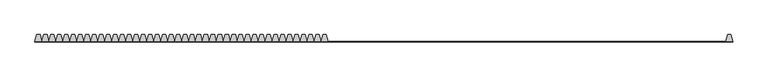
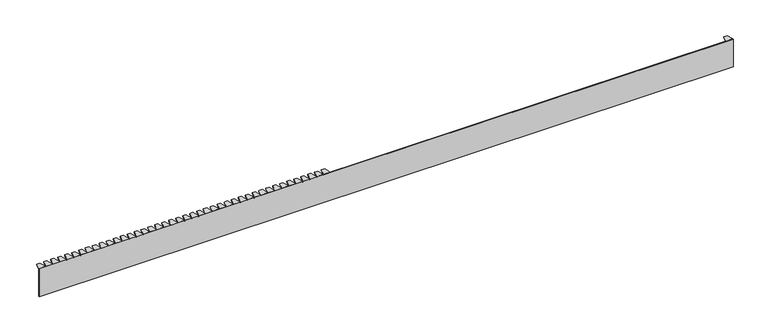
"""IFC4 building model written with IfcOpenShell, lengths in millimetres: duct fitting geometry, Частичная крышка шириной 40 мм - для кабель-канала DLP 65x195 - 2м - белый : 85мм."""

from ifc_helpers import new_model, si_unit, frame, origin, place, context, project, spatial, polyline, outline, extrude, source, transform, mapped, element, save


def duct_fitting_a01ee9ae(model_context):
    return source(origin(), model_context, "Body", "SweptSolid", [
        extrude(outline(polyline([(-165.3589838, 20.0), (-160.0, 0.0), (-180.0, 0.0), (-174.2650923, 20.0), (-165.3589838, 20.0)])), frame((0.0, 0.0, 40.5), z_axis=(0.0, 0.0, 1.0), x_axis=(1.0, 0.0, 0.0)), (0.0, 0.0, 1.0), 2.0),
        extrude(outline(polyline([(-185.3589838, 20.0), (-180.0, 0.0), (-200.0, 0.0), (-194.2650923, 20.0), (-185.3589838, 20.0)])), frame((0.0, 0.0, 40.5), z_axis=(0.0, 0.0, 1.0), x_axis=(1.0, 0.0, 0.0)), (0.0, 0.0, 1.0), 2.0),
        extrude(outline(polyline([(-205.3589838, 20.0), (-200.0, 0.0), (-220.0, 0.0), (-214.2650923, 20.0), (-205.3589838, 20.0)])), frame((0.0, 0.0, 40.5), z_axis=(0.0, 0.0, 1.0), x_axis=(1.0, 0.0, 0.0)), (0.0, 0.0, 1.0), 2.0),
        extrude(outline(polyline([(-225.3589838, 20.0), (-220.0, 0.0), (-240.0, 0.0), (-234.2650923, 20.0), (-225.3589838, 20.0)])), frame((0.0, 0.0, 40.5), z_axis=(0.0, 0.0, 1.0), x_axis=(1.0, 0.0, 0.0)), (0.0, 0.0, 1.0), 2.0),
        extrude(outline(polyline([(-245.3589838, 20.0), (-240.0, 0.0), (-260.0, 0.0), (-254.2650923, 20.0), (-245.3589838, 20.0)])), frame((0.0, 0.0, 40.5), z_axis=(0.0, 0.0, 1.0), x_axis=(1.0, 0.0, 0.0)), (0.0, 0.0, 1.0), 2.0),
        extrude(outline(polyline([(-265.3589838, 20.0), (-260.0, 0.0), (-280.0, 0.0), (-274.2650923, 20.0), (-265.3589838, 20.0)])), frame((0.0, 0.0, 40.5), z_axis=(0.0, 0.0, 1.0), x_axis=(1.0, 0.0, 0.0)), (0.0, 0.0, 1.0), 2.0),
        extrude(outline(polyline([(-285.3589838, 20.0), (-280.0, 0.0), (-300.0, 0.0), (-294.2650923, 20.0), (-285.3589838, 20.0)])), frame((0.0, 0.0, 40.5), z_axis=(0.0, 0.0, 1.0), x_axis=(1.0, 0.0, 0.0)), (0.0, 0.0, 1.0), 2.0),
        extrude(outline(polyline([(-305.3589838, 20.0), (-300.0, 0.0), (-320.0, 0.0), (-314.2650923, 20.0), (-305.3589838, 20.0)])), frame((0.0, 0.0, 40.5), z_axis=(0.0, 0.0, 1.0), x_axis=(1.0, 0.0, 0.0)), (0.0, 0.0, 1.0), 2.0),
        extrude(outline(polyline([(-325.3589838, 20.0), (-320.0, 0.0), (-340.0, 0.0), (-334.2650923, 20.0), (-325.3589838, 20.0)])), frame((0.0, 0.0, 40.5), z_axis=(0.0, 0.0, 1.0), x_axis=(1.0, 0.0, 0.0)), (0.0, 0.0, 1.0), 2.0),
        extrude(outline(polyline([(-345.3589838, 20.0), (-340.0, 0.0), (-360.0, 0.0), (-354.2650923, 20.0), (-345.3589838, 20.0)])), frame((0.0, 0.0, 40.5), z_axis=(0.0, 0.0, 1.0), x_axis=(1.0, 0.0, 0.0)), (0.0, 0.0, 1.0), 2.0),
        extrude(outline(polyline([(-365.3589838, 20.0), (-360.0, 0.0), (-380.0, 0.0), (-374.2650923, 20.0), (-365.3589838, 20.0)])), frame((0.0, 0.0, 40.5), z_axis=(0.0, 0.0, 1.0), x_axis=(1.0, 0.0, 0.0)), (0.0, 0.0, 1.0), 2.0),
        extrude(outline(polyline([(-385.3589838, 20.0), (-380.0, 0.0), (-400.0, 0.0), (-394.2650923, 20.0), (-385.3589838, 20.0)])), frame((0.0, 0.0, 40.5), z_axis=(0.0, 0.0, 1.0), x_axis=(1.0, 0.0, 0.0)), (0.0, 0.0, 1.0), 2.0),
        extrude(outline(polyline([(-405.3589838, 20.0), (-400.0, 0.0), (-420.0, 0.0), (-414.2650923, 20.0), (-405.3589838, 20.0)])), frame((0.0, 0.0, 40.5), z_axis=(0.0, 0.0, 1.0), x_axis=(1.0, 0.0, 0.0)), (0.0, 0.0, 1.0), 2.0),
        extrude(outline(polyline([(-425.3589838, 20.0), (-420.0, 0.0), (-440.0, 0.0), (-434.2650923, 20.0), (-425.3589838, 20.0)])), frame((0.0, 0.0, 40.5), z_axis=(0.0, 0.0, 1.0), x_axis=(1.0, 0.0, 0.0)), (0.0, 0.0, 1.0), 2.0),
        extrude(outline(polyline([(-445.3589838, 20.0), (-440.0, 0.0), (-460.0, 0.0), (-454.2650923, 20.0), (-445.3589838, 20.0)])), frame((0.0, 0.0, 40.5), z_axis=(0.0, 0.0, 1.0), x_axis=(1.0, 0.0, 0.0)), (0.0, 0.0, 1.0), 2.0),
        extrude(outline(polyline([(-465.3589838, 20.0), (-460.0, 0.0), (-480.0, 0.0), (-474.2650923, 20.0), (-465.3589838, 20.0)])), frame((0.0, 0.0, 40.5), z_axis=(0.0, 0.0, 1.0), x_axis=(1.0, 0.0, 0.0)), (0.0, 0.0, 1.0), 2.0),
        extrude(outline(polyline([(-485.3589838, 20.0), (-480.0, 0.0), (-500.0, 0.0), (-494.2650923, 20.0), (-485.3589838, 20.0)])), frame((0.0, 0.0, 40.5), z_axis=(0.0, 0.0, 1.0), x_axis=(1.0, 0.0, 0.0)), (0.0, 0.0, 1.0), 2.0),
        extrude(outline(polyline([(-505.3589838, 20.0), (-500.0, 0.0), (-520.0, 0.0), (-514.2650923, 20.0), (-505.3589838, 20.0)])), frame((0.0, 0.0, 40.5), z_axis=(0.0, 0.0, 1.0), x_axis=(1.0, 0.0, 0.0)), (0.0, 0.0, 1.0), 2.0),
        extrude(outline(polyline([(-525.3589838, 20.0), (-520.0, 0.0), (-540.0, 0.0), (-534.2650923, 20.0), (-525.3589838, 20.0)])), frame((0.0, 0.0, 40.5), z_axis=(0.0, 0.0, 1.0), x_axis=(1.0, 0.0, 0.0)), (0.0, 0.0, 1.0), 2.0),
        extrude(outline(polyline([(-545.3589838, 20.0), (-540.0, 0.0), (-560.0, 0.0), (-554.2650923, 20.0), (-545.3589838, 20.0)])), frame((0.0, 0.0, 40.5), z_axis=(0.0, 0.0, 1.0), x_axis=(1.0, 0.0, 0.0)), (0.0, 0.0, 1.0), 2.0),
        extrude(outline(polyline([(-565.3589838, 20.0), (-560.0, 0.0), (-580.0, 0.0), (-574.2650923, 20.0), (-565.3589838, 20.0)])), frame((0.0, 0.0, 40.5), z_axis=(0.0, 0.0, 1.0), x_axis=(1.0, 0.0, 0.0)), (0.0, 0.0, 1.0), 2.0),
        extrude(outline(polyline([(-585.3589838, 20.0), (-580.0, 0.0), (-600.0, 0.0), (-594.2650923, 20.0), (-585.3589838, 20.0)])), frame((0.0, 0.0, 40.5), z_axis=(0.0, 0.0, 1.0), x_axis=(1.0, 0.0, 0.0)), (0.0, 0.0, 1.0), 2.0),
        extrude(outline(polyline([(-605.3589838, 20.0), (-600.0, 0.0), (-620.0, 0.0), (-614.2650923, 20.0), (-605.3589838, 20.0)])), frame((0.0, 0.0, 40.5), z_axis=(0.0, 0.0, 1.0), x_axis=(1.0, 0.0, 0.0)), (0.0, 0.0, 1.0), 2.0),
        extrude(outline(polyline([(-625.3589838, 20.0), (-620.0, 0.0), (-640.0, 0.0), (-634.2650923, 20.0), (-625.3589838, 20.0)])), frame((0.0, 0.0, 40.5), z_axis=(0.0, 0.0, 1.0), x_axis=(1.0, 0.0, 0.0)), (0.0, 0.0, 1.0), 2.0),
        extrude(outline(polyline([(-645.3589838, 20.0), (-640.0, 0.0), (-660.0, 0.0), (-654.2650923, 20.0), (-645.3589838, 20.0)])), frame((0.0, 0.0, 40.5), z_axis=(0.0, 0.0, 1.0), x_axis=(1.0, 0.0, 0.0)), (0.0, 0.0, 1.0), 2.0),
        extrude(outline(polyline([(-665.3589838, 20.0), (-660.0, 0.0), (-680.0, 0.0), (-674.2650923, 20.0), (-665.3589838, 20.0)])), frame((0.0, 0.0, 40.5), z_axis=(0.0, 0.0, 1.0), x_axis=(1.0, 0.0, 0.0)), (0.0, 0.0, 1.0), 2.0),
        extrude(outline(polyline([(-685.3589838, 20.0), (-680.0, 0.0), (-700.0, 0.0), (-694.2650923, 20.0), (-685.3589838, 20.0)])), frame((0.0, 0.0, 40.5), z_axis=(0.0, 0.0, 1.0), x_axis=(1.0, 0.0, 0.0)), (0.0, 0.0, 1.0), 2.0),
        extrude(outline(polyline([(-705.3589838, 20.0), (-700.0, 0.0), (-720.0, 0.0), (-714.2650923, 20.0), (-705.3589838, 20.0)])), frame((0.0, 0.0, 40.5), z_axis=(0.0, 0.0, 1.0), x_axis=(1.0, 0.0, 0.0)), (0.0, 0.0, 1.0), 2.0),
        extrude(outline(polyline([(-725.3589838, 20.0), (-720.0, 0.0), (-740.0, 0.0), (-734.2650923, 20.0), (-725.3589838, 20.0)])), frame((0.0, 0.0, 40.5), z_axis=(0.0, 0.0, 1.0), x_axis=(1.0, 0.0, 0.0)), (0.0, 0.0, 1.0), 2.0),
        extrude(outline(polyline([(-745.3589838, 20.0), (-740.0, 0.0), (-760.0, 0.0), (-754.2650923, 20.0), (-745.3589838, 20.0)])), frame((0.0, 0.0, 40.5), z_axis=(0.0, 0.0, 1.0), x_axis=(1.0, 0.0, 0.0)), (0.0, 0.0, 1.0), 2.0),
        extrude(outline(polyline([(-765.3589838, 20.0), (-760.0, 0.0), (-780.0, 0.0), (-774.2650923, 20.0), (-765.3589838, 20.0)])), frame((0.0, 0.0, 40.5), z_axis=(0.0, 0.0, 1.0), x_axis=(1.0, 0.0, 0.0)), (0.0, 0.0, 1.0), 2.0),
        extrude(outline(polyline([(-785.3589838, 20.0), (-780.0, 0.0), (-800.0, 0.0), (-794.2650923, 20.0), (-785.3589838, 20.0)])), frame((0.0, 0.0, 40.5), z_axis=(0.0, 0.0, 1.0), x_axis=(1.0, 0.0, 0.0)), (0.0, 0.0, 1.0), 2.0),
        extrude(outline(polyline([(-805.3589838, 20.0), (-800.0, 0.0), (-820.0, 0.0), (-814.2650923, 20.0), (-805.3589838, 20.0)])), frame((0.0, 0.0, 40.5), z_axis=(0.0, 0.0, 1.0), x_axis=(1.0, 0.0, 0.0)), (0.0, 0.0, 1.0), 2.0),
        extrude(outline(polyline([(-825.3589838, 20.0), (-820.0, 0.0), (-840.0, 0.0), (-834.2650923, 20.0), (-825.3589838, 20.0)])), frame((0.0, 0.0, 40.5), z_axis=(0.0, 0.0, 1.0), x_axis=(1.0, 0.0, 0.0)), (0.0, 0.0, 1.0), 2.0),
        extrude(outline(polyline([(-845.3589838, 20.0), (-840.0, 0.0), (-860.0, 0.0), (-854.2650923, 20.0), (-845.3589838, 20.0)])), frame((0.0, 0.0, 40.5), z_axis=(0.0, 0.0, 1.0), x_axis=(1.0, 0.0, 0.0)), (0.0, 0.0, 1.0), 2.0),
        extrude(outline(polyline([(-865.3589838, 20.0), (-860.0, 0.0), (-880.0, 0.0), (-874.2650923, 20.0), (-865.3589838, 20.0)])), frame((0.0, 0.0, 40.5), z_axis=(0.0, 0.0, 1.0), x_axis=(1.0, 0.0, 0.0)), (0.0, 0.0, 1.0), 2.0),
        extrude(outline(polyline([(-885.3589838, 20.0), (-880.0, 0.0), (-900.0, 0.0), (-894.2650923, 20.0), (-885.3589838, 20.0)])), frame((0.0, 0.0, 40.5), z_axis=(0.0, 0.0, 1.0), x_axis=(1.0, 0.0, 0.0)), (0.0, 0.0, 1.0), 2.0),
        extrude(outline(polyline([(-905.3589838, 20.0), (-900.0, 0.0), (-920.0, 0.0), (-914.2650923, 20.0), (-905.3589838, 20.0)])), frame((0.0, 0.0, 40.5), z_axis=(0.0, 0.0, 1.0), x_axis=(1.0, 0.0, 0.0)), (0.0, 0.0, 1.0), 2.0),
        extrude(outline(polyline([(-925.3589838, 20.0), (-920.0, 0.0), (-940.0, 0.0), (-934.2650923, 20.0), (-925.3589838, 20.0)])), frame((0.0, 0.0, 40.5), z_axis=(0.0, 0.0, 1.0), x_axis=(1.0, 0.0, 0.0)), (0.0, 0.0, 1.0), 2.0),
        extrude(outline(polyline([(-945.3589838, 20.0), (-940.0, 0.0), (-960.0, 0.0), (-954.2650923, 20.0), (-945.3589838, 20.0)])), frame((0.0, 0.0, 40.5), z_axis=(0.0, 0.0, 1.0), x_axis=(1.0, 0.0, 0.0)), (0.0, 0.0, 1.0), 2.0),
        extrude(outline(polyline([(-965.3589838, 20.0), (-960.0, 0.0), (-980.0, 0.0), (-974.2650923, 20.0), (-965.3589838, 20.0)])), frame((0.0, 0.0, 40.5), z_axis=(0.0, 0.0, 1.0), x_axis=(1.0, 0.0, 0.0)), (0.0, 0.0, 1.0), 2.0),
        extrude(outline(polyline([(994.6410162, 20.0), (1000.0, 0.0), (980.0, 0.0), (985.7349077, 20.0), (994.6410162, 20.0)])), frame((0.0, 0.0, 40.5), z_axis=(0.0, 0.0, 1.0), x_axis=(1.0, 0.0, 0.0)), (0.0, 0.0, 1.0), 2.0),
        extrude(outline(polyline([(-985.3589838, 20.0), (-980.0, 0.0), (-1000.0, 0.0), (-994.2650923, 20.0), (-985.3589838, 20.0)])), frame((0.0, 0.0, 40.5), z_axis=(0.0, 0.0, 1.0), x_axis=(1.0, 0.0, 0.0)), (0.0, 0.0, 1.0), 2.0),
        extrude(outline(polyline([(-1000.0, -1.0), (-1000.0, 1.0), (1000.0, 1.0), (1000.0, -1.0), (-1000.0, -1.0)])), frame((0.0, 0.0, -42.5), z_axis=(0.0, 0.0, 1.0), x_axis=(1.0, 0.0, 0.0)), (0.0, 0.0, 1.0), 85.0),
    ])


if __name__ == "__main__":
    model = new_model("IFC4")
    model_context = context("Model", 3, world=origin())
    ifc_project = project(units=[si_unit("LENGTHUNIT", "METRE", prefix="MILLI")], contexts=[model_context])
    site = spatial("IfcSite", under=ifc_project)
    building = spatial("IfcBuilding", under=site)
    placement = place(None, origin())
    duct_fitting_shape = duct_fitting_a01ee9ae(model_context)
    element("IfcDuctFitting", 1, ObjectType="Частичная крышка шириной 40 мм - для кабель-канала DLP 65x195 - 2м - белый : 85мм", at=placement, inside=building, context=model_context, shape_type="MappedRepresentation", body=[
        mapped(duct_fitting_shape, transform((0.0, 0.0, 0.0), x_axis=(1.0, 0.0, 0.0), y_axis=(0.0, 1.0, 0.0), z_axis=(0.0, 0.0, 1.0))),
    ])
    save(model, "model.ifc")
